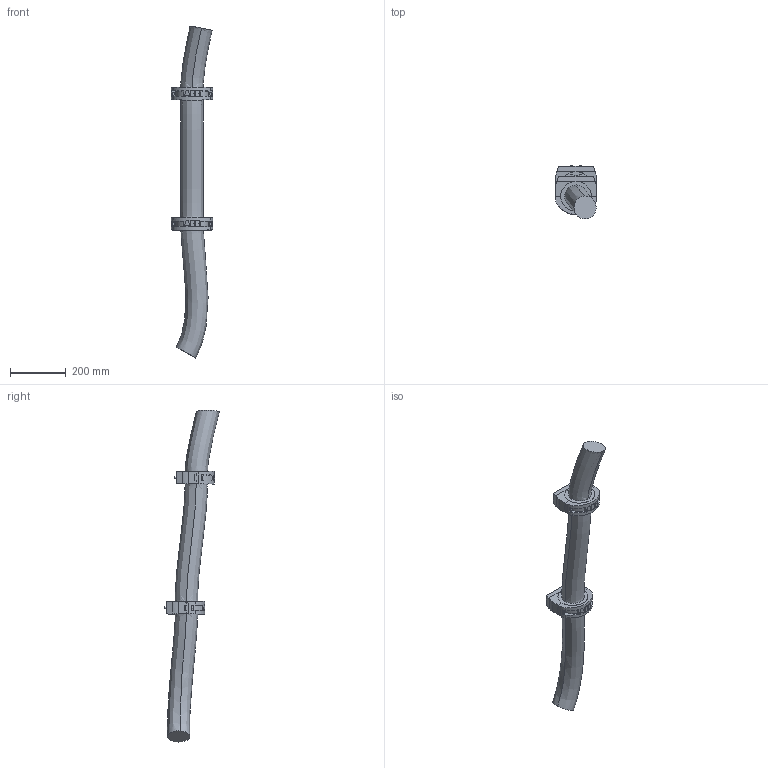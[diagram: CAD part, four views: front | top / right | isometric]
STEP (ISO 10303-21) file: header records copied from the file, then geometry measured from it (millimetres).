
FILE_DESCRIPTION (( 'STEP AP214' ), '1' );
FILE_NAME ('IRB6730-LID-SW_190kg-310_OC_00_LINK02_CABLE.step', '2026-05-26T09:13:51', ( '' ), ( '' ), 'SwSTEP 2.0', 'SolidWorks 2024', '' );
FILE_SCHEMA (( 'AUTOMOTIVE_DESIGN' ));
Length unit declared in the file: millimetre
Products named in the file (1): IRB6730-LID-SW_190kg-310_OC_00_LINK02_CABLE
Bounding box: 148 x 193.69 x 1186.32 mm (x, y, z)
Volume: 6952405.5 mm3; surface area: 395432.2 mm2
Topology: 1 solids, 1 shells, 224 faces, 584 edges, 380 vertices
Faces by surface type: plane 136, cylinder 66, bspline 14, cone 8
Entity records: 13220 total; most frequent: CARTESIAN_POINT 5422, ORIENTED_EDGE 1168, DIRECTION 1028, EDGE_CURVE 584, VERTEX_POINT 380, AXIS2_PLACEMENT_3D 349, VECTOR 330, LINE 330
